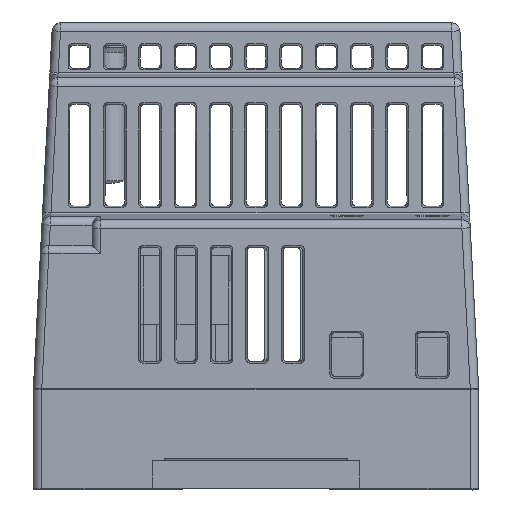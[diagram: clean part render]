
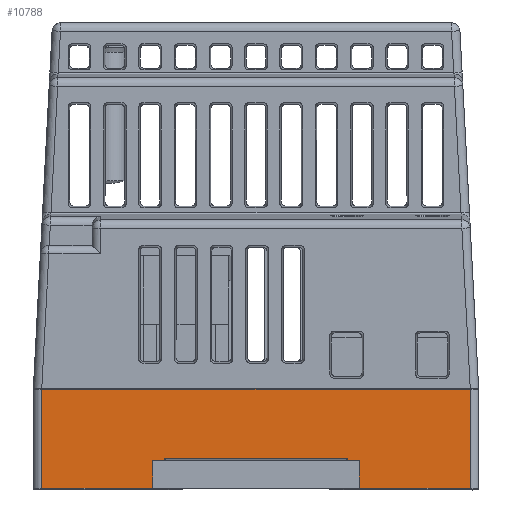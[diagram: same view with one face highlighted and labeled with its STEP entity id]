
A CAD part, front view. The second image highlights one B-rep face of the part: STEP entity #10788.
In plain terms, the highlighted planar face has unit normal (0, -1, 0).
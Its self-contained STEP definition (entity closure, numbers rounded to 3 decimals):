
#2253=DIRECTION('',(1.,0.,0.));
#2254=VECTOR('',#2253,51.);
#2255=CARTESIAN_POINT('',(-25.5,-45.5,12.));
#2256=LINE('',#2255,#2254);
#4449=DIRECTION('',(-1.,0.,0.));
#4450=VECTOR('',#4449,14.608);
#4451=CARTESIAN_POINT('',(-10.892,-45.5,0.2));
#4452=LINE('',#4451,#4450);
#4456=DIRECTION('',(0.,0.,-1.));
#4457=VECTOR('',#4456,11.8);
#4458=CARTESIAN_POINT('',(-25.5,-45.5,12.));
#4459=LINE('',#4458,#4457);
#4463=DIRECTION('',(0.,0.,-1.));
#4464=VECTOR('',#4463,11.8);
#4465=CARTESIAN_POINT('',(25.5,-45.5,12.));
#4466=LINE('',#4465,#4464);
#4470=DIRECTION('',(-1.,0.,0.));
#4471=VECTOR('',#4470,14.608);
#4472=CARTESIAN_POINT('',(25.5,-45.5,0.2));
#4473=LINE('',#4472,#4471);
#4477=DIRECTION('',(0.,0.,-1.));
#4478=VECTOR('',#4477,3.5);
#4479=CARTESIAN_POINT('',(10.892,-45.5,3.7));
#4480=LINE('',#4479,#4478);
#4484=DIRECTION('',(1.,0.,0.));
#4485=VECTOR('',#4484,21.785);
#4486=CARTESIAN_POINT('',(-10.892,-45.5,3.7));
#4487=LINE('',#4486,#4485);
#4491=DIRECTION('',(0.,0.,1.));
#4492=VECTOR('',#4491,3.5);
#4493=CARTESIAN_POINT('',(-10.892,-45.5,0.2));
#4494=LINE('',#4493,#4492);
#4528=CARTESIAN_POINT('',(-10.892,-45.5,3.7));
#4539=CARTESIAN_POINT('',(10.892,-45.5,3.7));
#6430=CARTESIAN_POINT('',(25.5,-45.5,12.));
#6432=VERTEX_POINT('',#6430);
#6435=CARTESIAN_POINT('',(-25.5,-45.5,12.));
#6437=VERTEX_POINT('',#6435);
#7176=CARTESIAN_POINT('',(-10.892,-45.5,0.2));
#7177=CARTESIAN_POINT('',(-25.5,-45.5,0.2));
#7178=VERTEX_POINT('',#7176);
#7179=VERTEX_POINT('',#7177);
#7187=CARTESIAN_POINT('',(25.5,-45.5,0.2));
#7189=VERTEX_POINT('',#7187);
#7234=CARTESIAN_POINT('',(10.892,-45.5,0.2));
#7235=VERTEX_POINT('',#7234);
#7237=VERTEX_POINT('',#4539);
#7286=VERTEX_POINT('',#4528);
#10768=CARTESIAN_POINT('',(-26.5,-45.5,0.));
#10769=DIRECTION('',(0.,-1.,0.));
#10770=DIRECTION('',(1.,0.,0.));
#10771=AXIS2_PLACEMENT_3D('',#10768,#10769,#10770);
#10772=PLANE('',#10771);
#10774=ORIENTED_EDGE('',*,*,#10773,.T.);
#10776=ORIENTED_EDGE('',*,*,#10775,.F.);
#10777=ORIENTED_EDGE('',*,*,#8675,.T.);
#10779=ORIENTED_EDGE('',*,*,#10778,.T.);
#10780=ORIENTED_EDGE('',*,*,#10759,.T.);
#10781=ORIENTED_EDGE('',*,*,#10736,.F.);
#10783=ORIENTED_EDGE('',*,*,#10782,.F.);
#10785=ORIENTED_EDGE('',*,*,#10784,.F.);
#10786=EDGE_LOOP('',(#10774,#10776,#10777,#10779,#10780,#10781,#10783,#10785));
#10787=FACE_OUTER_BOUND('',#10786,.F.);
#8675=EDGE_CURVE('',#6437,#6432,#2256,.T.);
#10736=EDGE_CURVE('',#7237,#7235,#4480,.T.);
#10759=EDGE_CURVE('',#7189,#7235,#4473,.T.);
#10773=EDGE_CURVE('',#7178,#7179,#4452,.T.);
#10775=EDGE_CURVE('',#6437,#7179,#4459,.T.);
#10778=EDGE_CURVE('',#6432,#7189,#4466,.T.);
#10782=EDGE_CURVE('',#7286,#7237,#4487,.T.);
#10784=EDGE_CURVE('',#7178,#7286,#4494,.T.);
#10788=ADVANCED_FACE('',(#10787),#10772,.T.);
